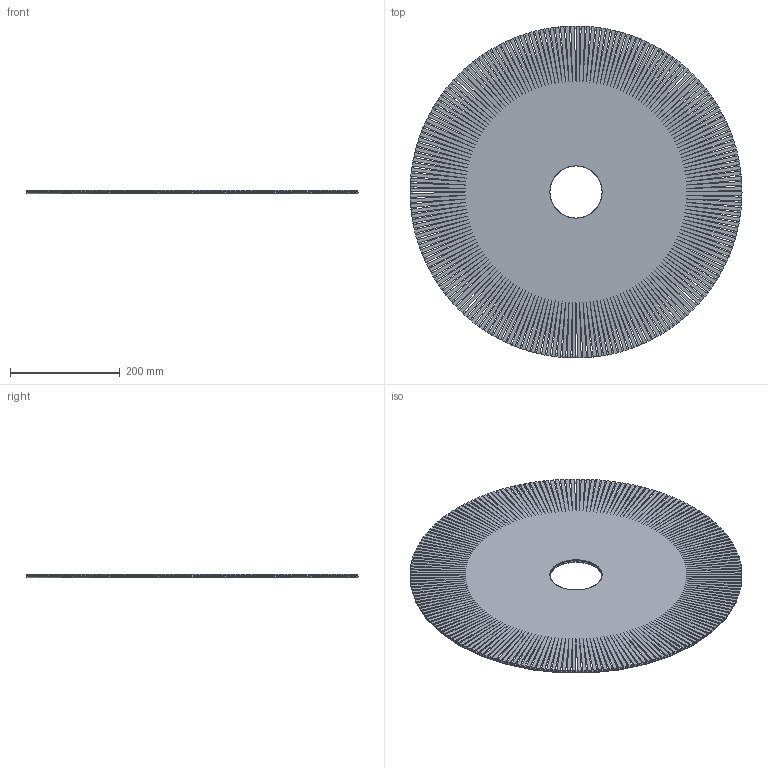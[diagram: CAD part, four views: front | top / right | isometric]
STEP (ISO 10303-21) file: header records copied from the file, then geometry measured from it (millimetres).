
FILE_DESCRIPTION (( 'STEP AP214' ), '1' );
FILE_NAME ('WIND_600.STEP', '2026-08-27T13:20:24', ( '' ), ( '' ), 'SwSTEP 2.0', 'SolidWorks 2023', '' );
FILE_SCHEMA (( 'AUTOMOTIVE_DESIGN' ));
Length unit declared in the file: millimetre
Products named in the file (1): WIND_600
Bounding box: 605 x 605 x 7 mm (x, y, z)
Volume: 540406.4 mm3; surface area: 615273.1 mm2
Topology: 3 solids, 3 shells, 1010 faces, 3016 edges, 2008 vertices
Faces by surface type: plane 1002, torus 8
Entity records: 33285 total; most frequent: CARTESIAN_POINT 6035, ORIENTED_EDGE 6032, DIRECTION 5054, EDGE_CURVE 3016, LINE 3000, VECTOR 3000, VERTEX_POINT 2008, AXIS2_PLACEMENT_3D 1027
